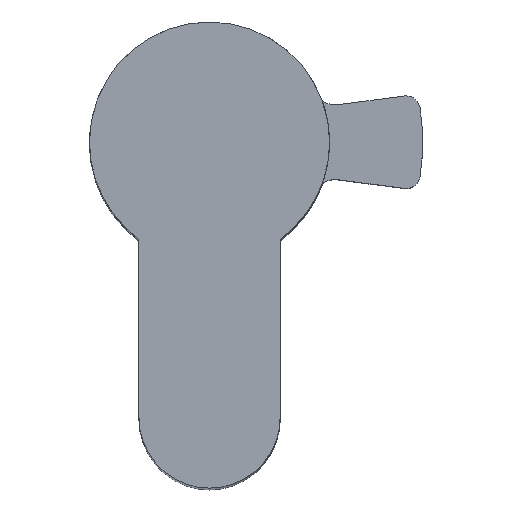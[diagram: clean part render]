
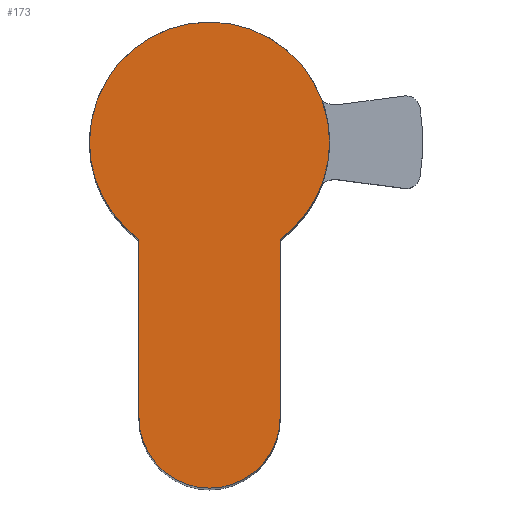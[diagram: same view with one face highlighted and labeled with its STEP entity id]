
A CAD part, top view. The second image highlights one B-rep face of the part: STEP entity #173.
In plain terms, the highlighted planar face has unit normal (0, 0, 1).
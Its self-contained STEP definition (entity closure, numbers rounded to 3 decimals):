
#51 = AXIS2_PLACEMENT_3D ( 'NONE', #1005, #280, #886 ) ;
#70 = VERTEX_POINT ( 'NONE', #1544 ) ;
#155 = EDGE_CURVE ( 'NONE', #1383, #430, #903, .T. ) ;
#173 = ADVANCED_FACE ( 'NONE', ( #866 ), #1461, .T. ) ;
#250 = DIRECTION ( 'NONE',  ( 1., 0., 0. ) ) ;
#260 = EDGE_CURVE ( 'NONE', #989, #974, #433, .T. ) ;
#280 = DIRECTION ( 'NONE',  ( 0., 0., 1. ) ) ;
#297 = DIRECTION ( 'NONE',  ( 0., 0., 1. ) ) ;
#299 = EDGE_CURVE ( 'NONE', #70, #989, #1387, .T. ) ;
#407 = CARTESIAN_POINT ( 'NONE',  ( 0., 0., 10. ) ) ;
#430 = VERTEX_POINT ( 'NONE', #842 ) ;
#433 = CIRCLE ( 'NONE', #51, 5. ) ;
#508 = DIRECTION ( 'NONE',  ( 1., 0., 0. ) ) ;
#509 = CIRCLE ( 'NONE', #1437, 8.5 ) ;
#588 = LINE ( 'NONE', #1415, #1293 ) ;
#590 = DIRECTION ( 'NONE',  ( 0., 0., 1. ) ) ;
#622 = CARTESIAN_POINT ( 'NONE',  ( 0., 0., 10. ) ) ;
#627 = AXIS2_PLACEMENT_3D ( 'NONE', #622, #1487, #1481 ) ;
#659 = ORIENTED_EDGE ( 'NONE', *, *, #155, .T. ) ;
#662 = CARTESIAN_POINT ( 'NONE',  ( -5., -19.5, 10. ) ) ;
#697 = DIRECTION ( 'NONE',  ( 0., 1., 0. ) ) ;
#734 = DIRECTION ( 'NONE',  ( 0., 0., 1. ) ) ;
#759 = CIRCLE ( 'NONE', #911, 8.5 ) ;
#764 = EDGE_CURVE ( 'NONE', #430, #70, #509, .T. ) ;
#767 = CARTESIAN_POINT ( 'NONE',  ( 8.5, 0., 10. ) ) ;
#779 = ORIENTED_EDGE ( 'NONE', *, *, #299, .T. ) ;
#780 = AXIS2_PLACEMENT_3D ( 'NONE', #1123, #297, #508 ) ;
#842 = CARTESIAN_POINT ( 'NONE',  ( -8.5, 0., 10. ) ) ;
#866 = FACE_OUTER_BOUND ( 'NONE', #874, .T. ) ;
#874 = EDGE_LOOP ( 'NONE', ( #1127, #659, #895, #779, #1074, #1505 ) ) ;
#886 = DIRECTION ( 'NONE',  ( 1., 0., 0. ) ) ;
#895 = ORIENTED_EDGE ( 'NONE', *, *, #764, .T. ) ;
#903 = CIRCLE ( 'NONE', #780, 8.5 ) ;
#911 = AXIS2_PLACEMENT_3D ( 'NONE', #407, #734, #1220 ) ;
#974 = VERTEX_POINT ( 'NONE', #1392 ) ;
#989 = VERTEX_POINT ( 'NONE', #662 ) ;
#1005 = CARTESIAN_POINT ( 'NONE',  ( 0., -19.5, 10. ) ) ;
#1074 = ORIENTED_EDGE ( 'NONE', *, *, #260, .T. ) ;
#1123 = CARTESIAN_POINT ( 'NONE',  ( 0., 0., 10. ) ) ;
#1127 = ORIENTED_EDGE ( 'NONE', *, *, #1245, .T. ) ;
#1185 = VECTOR ( 'NONE', #1502, 1000. ) ;
#1188 = CARTESIAN_POINT ( 'NONE',  ( 0., 0., 10. ) ) ;
#1192 = EDGE_CURVE ( 'NONE', #974, #1317, #588, .T. ) ;
#1220 = DIRECTION ( 'NONE',  ( 1., 0., 0. ) ) ;
#1245 = EDGE_CURVE ( 'NONE', #1317, #1383, #759, .T. ) ;
#1293 = VECTOR ( 'NONE', #697, 1000. ) ;
#1297 = CARTESIAN_POINT ( 'NONE',  ( -5., -6.874, 10. ) ) ;
#1317 = VERTEX_POINT ( 'NONE', #1448 ) ;
#1383 = VERTEX_POINT ( 'NONE', #767 ) ;
#1387 = LINE ( 'NONE', #1297, #1185 ) ;
#1392 = CARTESIAN_POINT ( 'NONE',  ( 5., -19.5, 10. ) ) ;
#1415 = CARTESIAN_POINT ( 'NONE',  ( 5., -19.5, 10. ) ) ;
#1437 = AXIS2_PLACEMENT_3D ( 'NONE', #1188, #590, #250 ) ;
#1448 = CARTESIAN_POINT ( 'NONE',  ( 5., -6.874, 10. ) ) ;
#1461 = PLANE ( 'NONE',  #627 ) ;
#1481 = DIRECTION ( 'NONE',  ( 1., 0., 0. ) ) ;
#1487 = DIRECTION ( 'NONE',  ( 0., 0., 1. ) ) ;
#1502 = DIRECTION ( 'NONE',  ( 0., -1., 0. ) ) ;
#1505 = ORIENTED_EDGE ( 'NONE', *, *, #1192, .T. ) ;
#1544 = CARTESIAN_POINT ( 'NONE',  ( -5., -6.874, 10. ) ) ;
